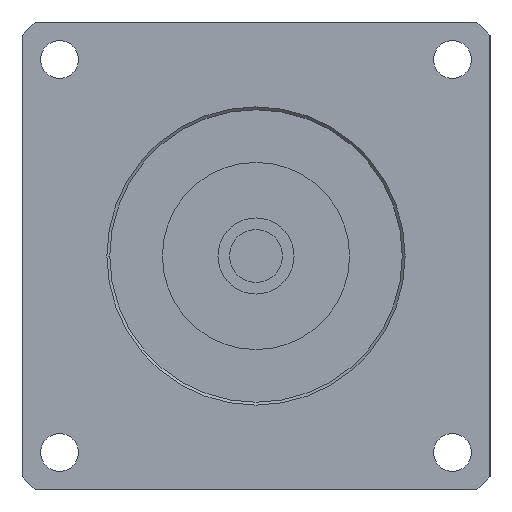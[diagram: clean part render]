
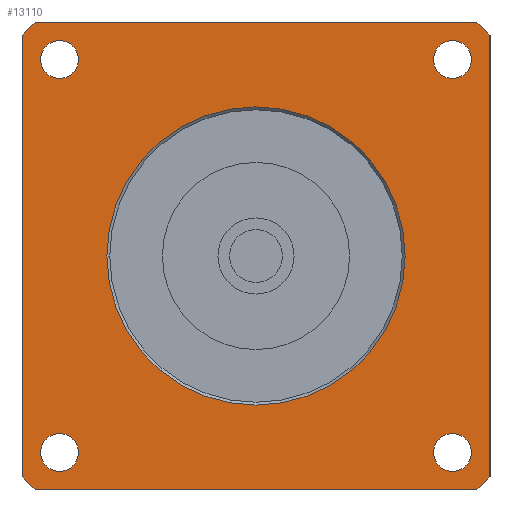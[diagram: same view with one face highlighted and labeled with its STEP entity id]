
A CAD part, left-side view. The second image highlights one B-rep face of the part: STEP entity #13110.
In plain terms, the highlighted planar face has unit normal (-1, 0, 0) as drawn and (0, 0, -1) by its records, which use the part's own axes.
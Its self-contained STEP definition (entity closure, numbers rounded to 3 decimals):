
#8680=CARTESIAN_POINT('',(30.338,33.588,-37.));
#8690=VERTEX_POINT('',#8680);
#8870=CARTESIAN_POINT('',(36.838,33.588,-37.));
#8880=VERTEX_POINT('',#8870);
#8910=CARTESIAN_POINT('',(33.588,33.588,-37.));
#8920=DIRECTION('',(0.,0.,-1.));
#8930=DIRECTION('',(1.,0.,0.));
#8940=AXIS2_PLACEMENT_3D('',#8910,#8920,#8930);
#8950=CIRCLE('',#8940,3.25);
#8960=EDGE_CURVE('',#8690,#8880,#8950,.T.);
#9100=CARTESIAN_POINT('',(-36.838,33.588,-37.));
#9110=VERTEX_POINT('',#9100);
#9290=CARTESIAN_POINT('',(-30.338,33.588,-37.));
#9300=VERTEX_POINT('',#9290);
#9330=CARTESIAN_POINT('',(-33.588,33.588,-37.));
#9340=DIRECTION('',(0.,0.,-1.));
#9350=DIRECTION('',(1.,0.,0.));
#9360=AXIS2_PLACEMENT_3D('',#9330,#9340,#9350);
#9370=CIRCLE('',#9360,3.25);
#9380=EDGE_CURVE('',#9110,#9300,#9370,.T.);
#11680=CARTESIAN_POINT('',(25.5,0.,-37.));
#11690=VERTEX_POINT('',#11680);
#11720=CARTESIAN_POINT('',(0.,0.,
-37.));
#11730=DIRECTION('',(0.,0.,1.));
#11740=DIRECTION('',(-1.,0.,0.));
#11750=AXIS2_PLACEMENT_3D('',#11720,#11730,#11740);
#11760=CIRCLE('',#11750,25.5);
#11770=CARTESIAN_POINT('',(-25.5,0.,-37.));
#11780=VERTEX_POINT('',#11770);
#11790=EDGE_CURVE('',#11690,#11780,#11760,.T.);
#11910=CARTESIAN_POINT('',(40.,40.,-37.));
#11920=DIRECTION('',(0.,0.,1.));
#11930=DIRECTION('',(-1.,0.,0.));
#11940=AXIS2_PLACEMENT_3D('',#11910,#11920,#11930);
#11950=PLANE('',#11940);
#11960=EDGE_CURVE('',#11780,#11690,#11760,.T.);
#11970=ORIENTED_EDGE('',*,*,#11960,.T.);
#11980=ORIENTED_EDGE('',*,*,#11790,.T.);
#11990=EDGE_LOOP('',(#11980,#11970));
#12000=FACE_BOUND('',#11990,.T.);
#12010=CARTESIAN_POINT('',(-33.588,-33.588,-37.));
#12020=DIRECTION('',(0.,0.,-1.));
#12030=DIRECTION('',(1.,0.,0.));
#12040=AXIS2_PLACEMENT_3D('',#12010,#12020,#12030);
#12050=CIRCLE('',#12040,3.25);
#12060=CARTESIAN_POINT('',(-30.338,-33.588,-37.));
#12070=VERTEX_POINT('',#12060);
#12080=CARTESIAN_POINT('',(-36.838,-33.588,-37.));
#12090=VERTEX_POINT('',#12080);
#12100=EDGE_CURVE('',#12070,#12090,#12050,.T.);
#12110=ORIENTED_EDGE('',*,*,#12100,.F.);
#12120=EDGE_CURVE('',#12090,#12070,#12050,.T.);
#12130=ORIENTED_EDGE('',*,*,#12120,.F.);
#12140=EDGE_LOOP('',(#12130,#12110));
#12150=FACE_BOUND('',#12140,.T.);
#12160=CARTESIAN_POINT('',(33.588,-33.588,-37.));
#12170=DIRECTION('',(0.,0.,-1.));
#12180=DIRECTION('',(1.,0.,0.));
#12190=AXIS2_PLACEMENT_3D('',#12160,#12170,#12180);
#12200=CIRCLE('',#12190,3.25);
#12210=CARTESIAN_POINT('',(36.838,-33.588,-37.));
#12220=VERTEX_POINT('',#12210);
#12230=CARTESIAN_POINT('',(30.338,-33.588,-37.));
#12240=VERTEX_POINT('',#12230);
#12250=EDGE_CURVE('',#12220,#12240,#12200,.T.);
#12260=ORIENTED_EDGE('',*,*,#12250,.F.);
#12270=EDGE_CURVE('',#12240,#12220,#12200,.T.);
#12280=ORIENTED_EDGE('',*,*,#12270,.F.);
#12290=EDGE_LOOP('',(#12280,#12260));
#12300=FACE_BOUND('',#12290,.T.);
#12310=EDGE_CURVE('',#8880,#8690,#8950,.T.);
#12320=ORIENTED_EDGE('',*,*,#12310,.F.);
#12330=ORIENTED_EDGE('',*,*,#8960,.F.);
#12340=EDGE_LOOP('',(#12330,#12320));
#12350=FACE_BOUND('',#12340,.T.);
#12360=EDGE_CURVE('',#9300,#9110,#9370,.T.);
#12370=ORIENTED_EDGE('',*,*,#12360,.F.);
#12380=ORIENTED_EDGE('',*,*,#9380,.F.);
#12390=EDGE_LOOP('',(#12380,#12370));
#12400=FACE_BOUND('',#12390,.T.);
#12410=CARTESIAN_POINT('',(0.,0.,
-37.));
#12420=DIRECTION('',(0.,0.,1.));
#12430=DIRECTION('',(1.,0.,0.));
#12440=AXIS2_PLACEMENT_3D('',#12410,#12420,#12430);
#12450=CIRCLE('',#12440,55.);
#12460=CARTESIAN_POINT('',(-40.,-37.749,-37.));
#12470=VERTEX_POINT('',#12460);
#12480=CARTESIAN_POINT('',(-37.749,-40.,-37.));
#12490=VERTEX_POINT('',#12480);
#12500=EDGE_CURVE('',#12470,#12490,#12450,.T.);
#12510=ORIENTED_EDGE('',*,*,#12500,.F.);
#12520=CARTESIAN_POINT('',(-40.,-40.,-37.));
#12530=DIRECTION('',(1.,0.,0.));
#12540=VECTOR('',#12530,1000.);
#12550=LINE('',#12520,#12540);
#12560=CARTESIAN_POINT('',(37.749,-40.,-37.));
#12570=VERTEX_POINT('',#12560);
#12580=EDGE_CURVE('',#12490,#12570,#12550,.T.);
#12590=ORIENTED_EDGE('',*,*,#12580,.F.);
#12600=CARTESIAN_POINT('',(0.,0.,
-37.));
#12610=DIRECTION('',(0.,0.,1.));
#12620=DIRECTION('',(1.,0.,0.));
#12630=AXIS2_PLACEMENT_3D('',#12600,#12610,#12620);
#12640=CIRCLE('',#12630,55.);
#12650=CARTESIAN_POINT('',(40.,-37.749,-37.));
#12660=VERTEX_POINT('',#12650);
#12670=EDGE_CURVE('',#12570,#12660,#12640,.T.);
#12680=ORIENTED_EDGE('',*,*,#12670,.F.);
#12690=CARTESIAN_POINT('',(40.,-40.,-37.));
#12700=DIRECTION('',(0.,1.,0.));
#12710=VECTOR('',#12700,1000.);
#12720=LINE('',#12690,#12710);
#12730=CARTESIAN_POINT('',(40.,37.749,-37.));
#12740=VERTEX_POINT('',#12730);
#12750=EDGE_CURVE('',#12660,#12740,#12720,.T.);
#12760=ORIENTED_EDGE('',*,*,#12750,.F.);
#12770=CARTESIAN_POINT('',(0.,0.,
-37.));
#12780=DIRECTION('',(0.,0.,1.));
#12790=DIRECTION('',(1.,0.,0.));
#12800=AXIS2_PLACEMENT_3D('',#12770,#12780,#12790);
#12810=CIRCLE('',#12800,55.);
#12820=CARTESIAN_POINT('',(37.749,40.,-37.));
#12830=VERTEX_POINT('',#12820);
#12840=EDGE_CURVE('',#12740,#12830,#12810,.T.);
#12850=ORIENTED_EDGE('',*,*,#12840,.F.);
#12860=CARTESIAN_POINT('',(40.,40.,-37.));
#12870=DIRECTION('',(-1.,0.,0.));
#12880=VECTOR('',#12870,1000.);
#12890=LINE('',#12860,#12880);
#12900=CARTESIAN_POINT('',(-37.749,40.,-37.));
#12910=VERTEX_POINT('',#12900);
#12920=EDGE_CURVE('',#12830,#12910,#12890,.T.);
#12930=ORIENTED_EDGE('',*,*,#12920,.F.);
#12940=CARTESIAN_POINT('',(0.,0.,
-37.));
#12950=DIRECTION('',(0.,0.,1.));
#12960=DIRECTION('',(1.,0.,0.));
#12970=AXIS2_PLACEMENT_3D('',#12940,#12950,#12960);
#12980=CIRCLE('',#12970,55.);
#12990=CARTESIAN_POINT('',(-40.,37.749,-37.));
#13000=VERTEX_POINT('',#12990);
#13010=EDGE_CURVE('',#12910,#13000,#12980,.T.);
#13020=ORIENTED_EDGE('',*,*,#13010,.F.);
#13030=CARTESIAN_POINT('',(-40.,40.,-37.));
#13040=DIRECTION('',(0.,-1.,0.));
#13050=VECTOR('',#13040,1000.);
#13060=LINE('',#13030,#13050);
#13070=EDGE_CURVE('',#13000,#12470,#13060,.T.);
#13080=ORIENTED_EDGE('',*,*,#13070,.F.);
#13090=EDGE_LOOP('',(#13080,#13020,#12930,#12850,#12760,#12680,#12590,
#12510));
#13100=FACE_OUTER_BOUND('',#13090,.T.);
#13110=ADVANCED_FACE('',(#12000,#12150,#12300,#12350,#12400,#13100),
#11950,.F.);
